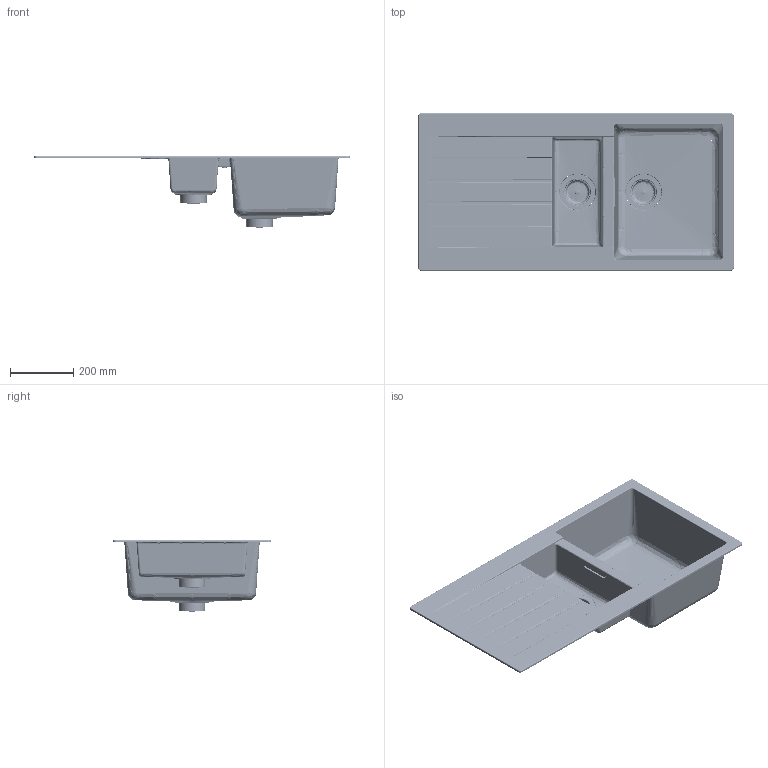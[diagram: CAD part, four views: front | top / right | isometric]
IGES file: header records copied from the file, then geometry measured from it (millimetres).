
Global section: file name: /Volumes/__KUNDEN/____01_SCHOCK/____projekte_schock/__RENDERINGS/__SPUELEN/02_3D Daten/02_PERSPEKTIVEN/Rhino/_SPU; native system: Rhinoceros ( Aug 27 2014 ); preprocessor: Trout Lake IGES 012 Aug 27 2014; date: 141104.094850; units: millimetre
Bounding box: 1000 x 500 x 227.25 mm (x, y, z)
Surface area: 951190.6 mm2 (no closed solid volume)
Topology: 0 solids, 0 shells, 801 faces, 80412 edges, 80392 vertices
Faces by surface type: bspline 801
